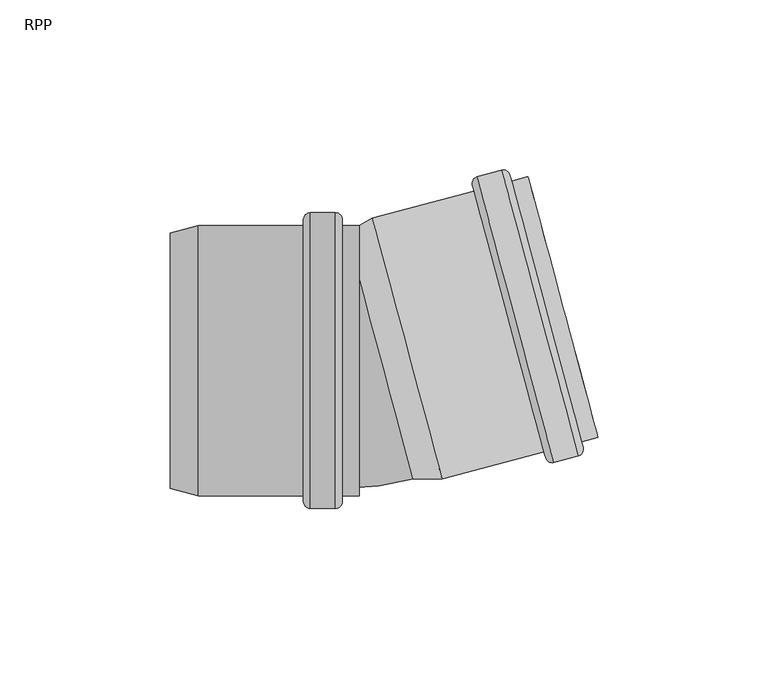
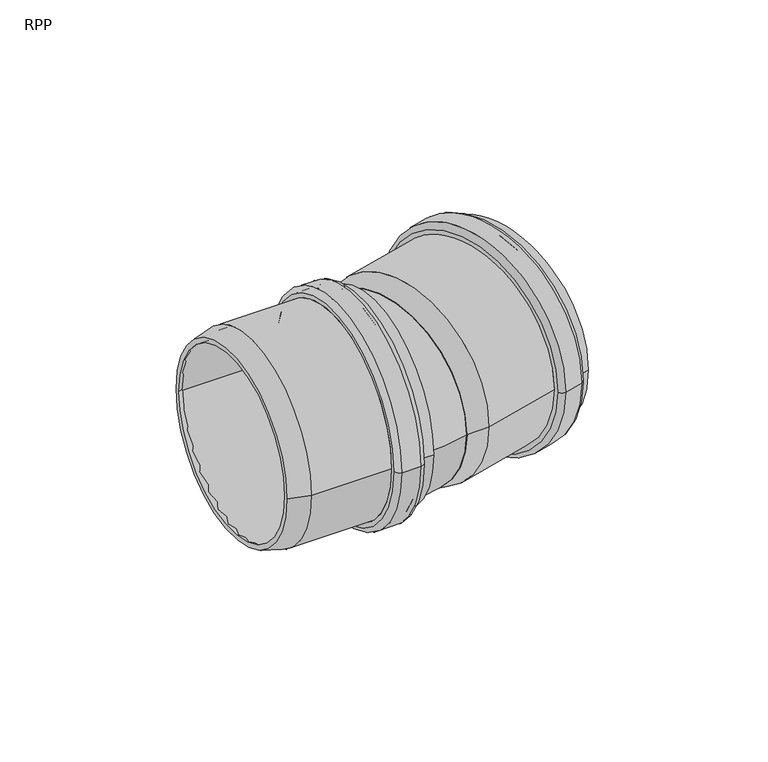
"""IFC4 building model written with IfcOpenShell, lengths in millimetres: pipe fitting geometry, RAUPIANO PLUS Bend : RPP."""

from ifc_helpers import new_model, si_unit, point, frame, origin, place, context, project, spatial, polyline, circle_curve, ellipse_curve, trimmed, source, transform, mapped, element, save
from ifc_brep_helpers import plane_surface, cylinder_surface, revolved_surface, advanced_brep


def rpp_9e0b4bd6(model_context):
    return source(origin(), model_context, "Body", "AdvancedBrep", [
        advanced_brep(
        [(-15.3635786, -37.8, 0.0), (-15.3635786, 37.8, 0.0), (-48.0029271, 37.8, 0.0), (-48.0029271, -37.8, 0.0), (-14.8635786, -41.6, 0.0), (-14.8635786, 41.6, 0.0), (-15.3635786, 41.1, 0.0), (-15.3635786, -41.1, 0.0), (-8.2635786, -41.6, 0.0), (-8.2635786, 41.6, 0.0), (-7.7635786, -41.1, 0.0), (-7.7635786, 41.1, 0.0), (-0.8635786, -37.8, 0.0), (-0.8635786, 37.8, 0.0), (-7.7635786, 37.8, 0.0), (-7.7635786, -37.8, 0.0), (-5.8635786, -39.7, 0.0), (-5.8635786, 39.7, 0.0), (-0.8635786, 39.7, 0.0), (-0.8635786, -39.7, 0.0), (-7.8635786, -43.5, 0.0), (-7.8635786, 43.5, 0.0), (-5.8635786, 41.5, 0.0), (-5.8635786, -41.5, 0.0), (-15.2635786, -43.5, 0.0), (-15.2635786, 43.5, 0.0), (-17.2635786, -41.5, 0.0), (-17.2635786, 41.5, 0.0), (-48.2530669, -39.7, 0.0), (-48.2530669, 39.7, 0.0), (-17.2635786, 39.7, 0.0), (-17.2635786, -39.7, 0.0), (-56.4635786, -37.5, 0.0), (-56.4635786, 37.5, 0.0), (-56.4635786, 35.5329753, 0.0), (-56.4635786, -35.5329753, 0.0)],
        [
            (0, 1, circle_curve(frame((-15.3635786, 0.0, 0.0), z_axis=(1.0, 0.0, 0.0), x_axis=(0.0, 1.0, 0.0)), 37.8)),
            (1, 2),
            (2, 3, circle_curve(frame((-48.0029271, 0.0, 0.0), z_axis=(-1.0, 0.0, 0.0), x_axis=(0.0, 1.0, 0.0)), 37.8)),
            (3, 0),
            (4, 5, circle_curve(frame((-14.8635786, 0.0, 0.0), z_axis=(1.0, 0.0, 0.0), x_axis=(0.0, 1.0, 0.0)), 41.6)),
            (5, 6, circle_curve(frame((-14.8635786, 41.1, 0.0), z_axis=(0.0, 0.0, 1.0), x_axis=(0.0, -1.0, 0.0)), 0.5)),
            (6, 7, circle_curve(frame((-15.3635786, 0.0, 0.0), z_axis=(-1.0, 0.0, 0.0), x_axis=(0.0, 1.0, 0.0)), 41.1)),
            (7, 4, circle_curve(frame((-14.8635786, -41.1, 0.0), z_axis=(0.0, 0.0, 1.0), x_axis=(0.0, 1.0, 0.0)), 0.5)),
            (8, 9, circle_curve(frame((-8.2635786, 0.0, 0.0), z_axis=(1.0, 0.0, 0.0), x_axis=(0.0, 1.0, 0.0)), 41.6)),
            (9, 5),
            (4, 8),
            (10, 11, circle_curve(frame((-7.7635786, 0.0, 0.0), z_axis=(1.0, 0.0, 0.0), x_axis=(0.0, 1.0, 0.0)), 41.1)),
            (11, 9, circle_curve(frame((-8.2635786, 41.1, 0.0), z_axis=(0.0, 0.0, 1.0), x_axis=(0.0, -1.0, 0.0)), 0.5)),
            (8, 10, circle_curve(frame((-8.2635786, -41.1, 0.0), z_axis=(0.0, 0.0, 1.0), x_axis=(0.0, 1.0, 0.0)), 0.5)),
            (12, 13, circle_curve(frame((-0.8635786, 0.0, 0.0), z_axis=(1.0, 0.0, 0.0), x_axis=(0.0, 1.0, 0.0)), 37.8)),
            (13, 14),
            (14, 15, circle_curve(frame((-7.7635786, 0.0, 0.0), z_axis=(-1.0, 0.0, 0.0), x_axis=(0.0, 1.0, 0.0)), 37.8)),
            (15, 12),
            (16, 17, circle_curve(frame((-5.8635786, 0.0, 0.0), z_axis=(1.0, 0.0, 0.0), x_axis=(0.0, 1.0, 0.0)), 39.7)),
            (17, 18),
            (18, 19, circle_curve(frame((-0.8635786, 0.0, 0.0), z_axis=(-1.0, 0.0, 0.0), x_axis=(0.0, 1.0, 0.0)), 39.7)),
            (19, 16),
            (20, 21, circle_curve(frame((-7.8635786, 0.0, 0.0), z_axis=(1.0, 0.0, 0.0), x_axis=(0.0, 1.0, 0.0)), 43.5)),
            (21, 22, circle_curve(frame((-7.8635786, 41.5, 0.0), z_axis=(0.0, 0.0, -1.0), x_axis=(0.0, -1.0, 0.0)), 2.0)),
            (22, 23, circle_curve(frame((-5.8635786, 0.0, 0.0), z_axis=(-1.0, 0.0, 0.0), x_axis=(0.0, 1.0, 0.0)), 41.5)),
            (23, 20, circle_curve(frame((-7.8635786, -41.5, 0.0), z_axis=(0.0, 0.0, -1.0), x_axis=(0.0, 1.0, 0.0)), 2.0)),
            (24, 25, circle_curve(frame((-15.2635786, 0.0, 0.0), z_axis=(1.0, 0.0, 0.0), x_axis=(0.0, 1.0, 0.0)), 43.5)),
            (25, 21),
            (20, 24),
            (26, 27, circle_curve(frame((-17.2635786, 0.0, 0.0), z_axis=(1.0, 0.0, 0.0), x_axis=(0.0, 1.0, 0.0)), 41.5)),
            (27, 25, circle_curve(frame((-15.2635786, 41.5, 0.0), z_axis=(0.0, 0.0, -1.0), x_axis=(0.0, -1.0, 0.0)), 2.0)),
            (24, 26, circle_curve(frame((-15.2635786, -41.5, 0.0), z_axis=(0.0, 0.0, -1.0), x_axis=(0.0, 1.0, 0.0)), 2.0)),
            (28, 29, circle_curve(frame((-48.2530669, 0.0, 0.0), z_axis=(1.0, 0.0, 0.0), x_axis=(0.0, 1.0, 0.0)), 39.7)),
            (29, 30),
            (30, 31, circle_curve(frame((-17.2635786, 0.0, 0.0), z_axis=(-1.0, 0.0, 0.0), x_axis=(0.0, 1.0, 0.0)), 39.7)),
            (31, 28),
            (32, 33, circle_curve(frame((-56.4635786, 0.0, 0.0), z_axis=(1.0, 0.0, 0.0), x_axis=(0.0, 1.0, 0.0)), 37.5)),
            (33, 29),
            (28, 32),
            (2, 34),
            (34, 35, circle_curve(frame((-56.4635786, 0.0, 0.0), z_axis=(-1.0, 0.0, 0.0), x_axis=(0.0, 1.0, 0.0)), 35.5329753)),
            (35, 3),
            (1, 0, circle_curve(frame((-15.3635786, 0.0, 0.0), z_axis=(1.0, 0.0, 0.0), x_axis=(0.0, -1.0, 0.0)), 37.8)),
            (3, 2, circle_curve(frame((-48.0029271, 0.0, 0.0), z_axis=(-1.0, 0.0, 0.0), x_axis=(0.0, -1.0, 0.0)), 37.8)),
            (6, 7, circle_curve(frame((-15.3635786, 0.0, 0.0), z_axis=(1.0, 0.0, 0.0), x_axis=(0.0, -1.0, 0.0)), 41.1)),
            (5, 4, circle_curve(frame((-14.8635786, 0.0, 0.0), z_axis=(1.0, 0.0, 0.0), x_axis=(0.0, -1.0, 0.0)), 41.6)),
            (9, 8, circle_curve(frame((-8.2635786, 0.0, 0.0), z_axis=(1.0, 0.0, 0.0), x_axis=(0.0, -1.0, 0.0)), 41.6)),
            (11, 10, circle_curve(frame((-7.7635786, 0.0, 0.0), z_axis=(1.0, 0.0, 0.0), x_axis=(0.0, -1.0, 0.0)), 41.1)),
            (14, 15, circle_curve(frame((-7.7635786, 0.0, 0.0), z_axis=(1.0, 0.0, 0.0), x_axis=(0.0, -1.0, 0.0)), 37.8)),
            (13, 12, circle_curve(frame((-0.8635786, 0.0, 0.0), z_axis=(1.0, 0.0, 0.0), x_axis=(0.0, -1.0, 0.0)), 37.8)),
            (18, 19, circle_curve(frame((-0.8635786, 0.0, 0.0), z_axis=(1.0, 0.0, 0.0), x_axis=(0.0, -1.0, 0.0)), 39.7)),
            (17, 16, circle_curve(frame((-5.8635786, 0.0, 0.0), z_axis=(1.0, 0.0, 0.0), x_axis=(0.0, -1.0, 0.0)), 39.7)),
            (22, 23, circle_curve(frame((-5.8635786, 0.0, 0.0), z_axis=(1.0, 0.0, 0.0), x_axis=(0.0, -1.0, 0.0)), 41.5)),
            (21, 20, circle_curve(frame((-7.8635786, 0.0, 0.0), z_axis=(1.0, 0.0, 0.0), x_axis=(0.0, -1.0, 0.0)), 43.5)),
            (25, 24, circle_curve(frame((-15.2635786, 0.0, 0.0), z_axis=(1.0, 0.0, 0.0), x_axis=(0.0, -1.0, 0.0)), 43.5)),
            (27, 26, circle_curve(frame((-17.2635786, 0.0, 0.0), z_axis=(1.0, 0.0, 0.0), x_axis=(0.0, -1.0, 0.0)), 41.5)),
            (30, 31, circle_curve(frame((-17.2635786, 0.0, 0.0), z_axis=(1.0, 0.0, 0.0), x_axis=(0.0, -1.0, 0.0)), 39.7)),
            (29, 28, circle_curve(frame((-48.2530669, 0.0, 0.0), z_axis=(1.0, 0.0, 0.0), x_axis=(0.0, -1.0, 0.0)), 39.7)),
            (33, 32, circle_curve(frame((-56.4635786, 0.0, 0.0), z_axis=(1.0, 0.0, 0.0), x_axis=(0.0, -1.0, 0.0)), 37.5)),
            (34, 35, circle_curve(frame((-56.4635786, 0.0, 0.0), z_axis=(1.0, 0.0, 0.0), x_axis=(0.0, -1.0, 0.0)), 35.5329753)),
        ],
        [
            revolved_surface(polyline([(-48.0029271, 37.8, 0.0), (-15.363578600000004, 37.8, 0.0)]), (-56.4635786, 0.0, 0.0), (-1.0, 0.0, 0.0)),
            revolved_surface(trimmed(ellipse_curve(frame((-14.8635786, 41.1, 0.0), z_axis=(0.0, 0.0, -1.0), x_axis=(0.0, -1.0, 0.0)), 0.5, 0.5), [point((-15.3635786, 41.1, 0.0))], [point((-14.8635786, 41.6, 0.0))], True, "CARTESIAN"), (-56.4635786, 0.0, 0.0), (-1.0, 0.0, 0.0)),
            revolved_surface(polyline([(-14.863578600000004, 41.6, 0.0), (-8.263578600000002, 41.6, 0.0)]), (-56.4635786, 0.0, 0.0), (-1.0, 0.0, 0.0)),
            revolved_surface(trimmed(ellipse_curve(frame((-8.2635786, 41.1, 0.0), z_axis=(0.0, 0.0, -1.0), x_axis=(0.0, -1.0, 0.0)), 0.5, 0.5), [point((-8.2635786, 41.6, 0.0))], [point((-7.7635786, 41.1, 0.0))], True, "CARTESIAN"), (-56.4635786, 0.0, 0.0), (-1.0, 0.0, 0.0)),
            revolved_surface(polyline([(-7.763578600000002, 37.8, 0.0), (-0.8635785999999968, 37.8, 0.0)]), (-56.4635786, 0.0, 0.0), (-1.0, 0.0, 0.0)),
            cylinder_surface(frame((-56.4635786, 0.0, 0.0), z_axis=(-1.0, 0.0, 0.0), x_axis=(0.0, 1.0, 0.0)), 39.7),
            revolved_surface(trimmed(ellipse_curve(frame((-7.8635786, 41.5, 0.0), z_axis=(0.0, 0.0, 1.0), x_axis=(0.0, -1.0, 0.0)), 2.0, 2.0), [point((-5.8635786, 41.5, 0.0))], [point((-7.8635786, 43.5, 0.0))], True, "CARTESIAN"), (-56.4635786, 0.0, 0.0), (-1.0, 0.0, 0.0)),
            cylinder_surface(frame((-56.4635786, 0.0, 0.0), z_axis=(-1.0, 0.0, 0.0), x_axis=(0.0, 1.0, 0.0)), 43.5),
            revolved_surface(trimmed(ellipse_curve(frame((-15.2635786, 41.5, 0.0), z_axis=(0.0, 0.0, 1.0), x_axis=(0.0, -1.0, 0.0)), 2.0, 2.0), [point((-15.2635786, 43.5, 0.0))], [point((-17.2635786, 41.5, 0.0))], True, "CARTESIAN"), (-56.4635786, 0.0, 0.0), (-1.0, 0.0, 0.0)),
            revolved_surface(polyline([(-48.2530669, 39.7, 0.0), (-56.4635786, 37.5, 0.0)]), (-56.4635786, 0.0, 0.0), (-1.0, 0.0, 0.0)),
            revolved_surface(polyline([(-56.4635786, 35.5329753, 0.0), (-48.0029271, 37.8, 0.0)]), (-56.4635786, 0.0, 0.0), (-1.0, 0.0, 0.0)),
            revolved_surface(polyline([(-48.0029271, -37.8, 0.0), (-15.363578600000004, -37.8, 0.0)]), (-56.4635786, 0.0, 0.0), (-1.0, 0.0, 0.0)),
            plane_surface(frame((-15.3635786, 0.0, 0.0), z_axis=(1.0, 0.0, 0.0), x_axis=(0.0, -1.0, 0.0))),
            revolved_surface(trimmed(ellipse_curve(frame((-14.8635786, -41.1, 0.0), z_axis=(0.0, 0.0, 1.0), x_axis=(0.0, 1.0, 0.0)), 0.5, 0.5), [point((-15.3635786, -41.1, 0.0))], [point((-14.8635786, -41.6, 0.0))], True, "CARTESIAN"), (-56.4635786, 0.0, 0.0), (-1.0, 0.0, 0.0)),
            revolved_surface(polyline([(-14.863578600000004, -41.6, 0.0), (-8.263578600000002, -41.6, 0.0)]), (-56.4635786, 0.0, 0.0), (-1.0, 0.0, 0.0)),
            revolved_surface(trimmed(ellipse_curve(frame((-8.2635786, -41.1, 0.0), z_axis=(0.0, 0.0, 1.0), x_axis=(0.0, 1.0, 0.0)), 0.5, 0.5), [point((-8.2635786, -41.6, 0.0))], [point((-7.7635786, -41.1, 0.0))], True, "CARTESIAN"), (-56.4635786, 0.0, 0.0), (-1.0, 0.0, 0.0)),
            plane_surface(frame((-7.7635786, 0.0, 0.0), z_axis=(-1.0, 0.0, 0.0), x_axis=(0.0, -1.0, 0.0))),
            revolved_surface(polyline([(-7.763578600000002, -37.8, 0.0), (-0.8635785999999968, -37.8, 0.0)]), (-56.4635786, 0.0, 0.0), (-1.0, 0.0, 0.0)),
            plane_surface(frame((-0.8635786, 0.0, 0.0), z_axis=(1.0, 0.0, 0.0), x_axis=(0.0, -1.0, 0.0))),
            cylinder_surface(frame((-56.4635786, 0.0, 0.0), z_axis=(-1.0, 0.0, 0.0), x_axis=(0.0, -1.0, 0.0)), 39.7),
            plane_surface(frame((-5.8635786, 0.0, 0.0), z_axis=(1.0, 0.0, 0.0), x_axis=(0.0, -1.0, 0.0))),
            revolved_surface(trimmed(ellipse_curve(frame((-7.8635786, -41.5, 0.0), z_axis=(0.0, 0.0, -1.0), x_axis=(0.0, 1.0, 0.0)), 2.0, 2.0), [point((-5.8635786, -41.5, 0.0))], [point((-7.8635786, -43.5, 0.0))], True, "CARTESIAN"), (-56.4635786, 0.0, 0.0), (-1.0, 0.0, 0.0)),
            cylinder_surface(frame((-56.4635786, 0.0, 0.0), z_axis=(-1.0, 0.0, 0.0), x_axis=(0.0, -1.0, 0.0)), 43.5),
            revolved_surface(trimmed(ellipse_curve(frame((-15.2635786, -41.5, 0.0), z_axis=(0.0, 0.0, -1.0), x_axis=(0.0, 1.0, 0.0)), 2.0, 2.0), [point((-15.2635786, -43.5, 0.0))], [point((-17.2635786, -41.5, 0.0))], True, "CARTESIAN"), (-56.4635786, 0.0, 0.0), (-1.0, 0.0, 0.0)),
            plane_surface(frame((-17.2635786, 0.0, 0.0), z_axis=(-1.0, 0.0, 0.0), x_axis=(0.0, -1.0, 0.0))),
            revolved_surface(polyline([(-48.2530669, -39.7, 0.0), (-56.4635786, -37.5, 0.0)]), (-56.4635786, 0.0, 0.0), (-1.0, 0.0, 0.0)),
            plane_surface(frame((-56.4635786, 0.0, 0.0), z_axis=(-1.0, 0.0, 0.0), x_axis=(0.0, -1.0, 0.0))),
            revolved_surface(polyline([(-56.4635786, -35.5329753, 0.0), (-48.0029271, -37.8, 0.0)]), (-56.4635786, 0.0, 0.0), (-1.0, 0.0, 0.0)),
        ],
        [
            (0, [[1, 2, 3, 4]]),
            (1, [[5, 6, 7, 8]]),
            (2, [[9, 10, -5, 11]]),
            (3, [[12, 13, -9, 14]]),
            (4, [[15, 16, 17, 18]]),
            (5, [[19, 20, 21, 22]]),
            (6, [[23, 24, 25, 26]]),
            (7, [[27, 28, -23, 29]]),
            (8, [[30, 31, -27, 32]]),
            (5, [[33, 34, 35, 36]]),
            (9, [[37, 38, -33, 39]]),
            (10, [[-3, 40, 41, 42]]),
            (11, [[43, -4, 44, -2]]),
            (12, [[45, -7], [-43, -1]]),
            (13, [[46, -8, -45, -6]]),
            (14, [[47, -11, -46, -10]]),
            (15, [[48, -14, -47, -13]]),
            (16, [[-48, -12], [49, -17]]),
            (17, [[50, -18, -49, -16]]),
            (18, [[51, -21], [-50, -15]]),
            (19, [[52, -22, -51, -20]]),
            (20, [[53, -25], [-52, -19]]),
            (21, [[54, -26, -53, -24]]),
            (22, [[55, -29, -54, -28]]),
            (23, [[56, -32, -55, -31]]),
            (24, [[-56, -30], [57, -35]]),
            (19, [[58, -36, -57, -34]]),
            (25, [[59, -39, -58, -38]]),
            (26, [[-59, -37], [60, -41]]),
            (27, [[-44, -42, -60, -40]]),
        ],
    ),
        advanced_brep(
        [(14.4740224, -32.9081403, 0.0), (-3.919199, 35.7362967, 0.0), (3.6664136, 40.1158522, 0.0), (23.2331334, -32.9081403, 0.0), (23.4832732, -34.8081403, 0.0), (2.933041, 41.8863703, 0.0), (-4.4283025, 37.6362967, 0.0), (14.9831259, -34.8081403, 0.0), (53.4168202, -26.7874705, 0.0), (32.866588, 49.9070401, 0.0), (63.4800353, -28.0250896, 0.0), (40.9627784, 56.0104572, 0.0), (33.8149273, 54.0951963, 0.0), (56.3321842, -29.9403506, 0.0), (69.2580038, -22.5428382, 0.0), (48.7077716, 54.1516724, 0.0), (43.8781424, 52.8575772, 0.0), (64.4283746, -23.8369334, 0.0), (62.1013594, -22.4934305, 0.0), (42.5346396, 50.5305619, 0.0), (49.1995278, 52.3164134, 0.0), (68.7662476, -20.7075791, 0.0), (56.2267984, -28.0015639, 0.0), (34.6930538, 52.3634649, 0.0), (41.0681643, 54.0716706, 0.0), (62.6019088, -26.2933582, 0.0), (35.1936033, 48.5635372, 0.0), (54.7603231, -24.4604553, 0.0), (32.4007137, 51.6457066, 0.0), (53.8826945, -28.526137, 0.0), (64.8942489, -25.5755999, 0.0), (43.4122682, 54.5962437, 0.0), (41.6805367, 53.7181172, 0.0), (62.9554622, -25.6809858, 0.0), (55.6144259, -27.6480105, 0.0), (34.3395004, 51.7510924, 0.0)],
        [
            (0, 1, circle_curve(frame((5.2774117, 1.4140782, 0.0), z_axis=(-0.965925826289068, -0.25881904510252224, 0.0), x_axis=(-0.25881904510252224, 0.965925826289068, 0.0)), 35.5329753)),
            (1, 2),
            (2, 3, circle_curve(frame((13.4497735, 3.603856, 0.0), z_axis=(0.965925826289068, 0.25881904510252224, 0.0), x_axis=(-0.25881904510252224, 0.965925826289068, 0.0)), 37.8)),
            (3, 0),
            (4, 5, circle_curve(frame((13.2081571, 3.539115, 0.0), z_axis=(-0.965925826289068, -0.25881904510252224, 0.0), x_axis=(-0.25881904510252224, 0.965925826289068, 0.0)), 39.7)),
            (5, 6),
            (6, 7, circle_curve(frame((5.2774117, 1.4140782, 0.0), z_axis=(0.965925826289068, 0.25881904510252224, 0.0), x_axis=(-0.25881904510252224, 0.965925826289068, 0.0)), 37.5)),
            (7, 4),
            (8, 9, circle_curve(frame((43.1417041, 11.5597848, 0.0), z_axis=(-0.965925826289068, -0.25881904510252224, 0.0), x_axis=(-0.25881904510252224, 0.965925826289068, 0.0)), 39.7)),
            (9, 5),
            (4, 8),
            (10, 11, circle_curve(frame((52.2214069, 13.9926838, 0.0), z_axis=(-0.965925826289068, -0.25881904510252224, 0.0), x_axis=(-0.25881904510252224, 0.965925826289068, 0.0)), 43.5)),
            (11, 12),
            (12, 13, circle_curve(frame((45.0735558, 12.0774229, 0.0), z_axis=(0.965925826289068, 0.25881904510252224, 0.0), x_axis=(-0.25881904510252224, 0.965925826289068, 0.0)), 43.5)),
            (13, 10),
            (14, 15, circle_curve(frame((58.9828877, 15.8044171, 0.0), z_axis=(-0.965925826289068, -0.25881904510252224, 0.0), x_axis=(-0.25881904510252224, 0.965925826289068, 0.0)), 39.7)),
            (15, 16),
            (16, 17, circle_curve(frame((54.1532585, 14.5103219, 0.0), z_axis=(0.965925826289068, 0.25881904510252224, 0.0), x_axis=(-0.25881904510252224, 0.965925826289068, 0.0)), 39.7)),
            (17, 14),
            (18, 19, circle_curve(frame((52.3179995, 14.0185657, 0.0), z_axis=(-0.965925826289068, -0.25881904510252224, 0.0), x_axis=(-0.25881904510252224, 0.965925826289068, 0.0)), 37.8)),
            (19, 20),
            (20, 21, circle_curve(frame((58.9828877, 15.8044171, 0.0), z_axis=(0.965925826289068, 0.25881904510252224, 0.0), x_axis=(-0.25881904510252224, 0.965925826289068, 0.0)), 37.8)),
            (21, 18),
            (22, 23, circle_curve(frame((45.4599261, 12.1809505, 0.0), z_axis=(-0.965925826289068, -0.25881904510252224, 0.0), x_axis=(-0.25881904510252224, 0.965925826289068, 0.0)), 41.6)),
            (23, 24),
            (24, 25, circle_curve(frame((51.8350365, 13.8891562, 0.0), z_axis=(0.965925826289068, 0.25881904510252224, 0.0), x_axis=(-0.25881904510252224, 0.965925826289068, 0.0)), 41.6)),
            (25, 22),
            (2, 26),
            (26, 27, circle_curve(frame((44.9769632, 12.051541, 0.0), z_axis=(0.965925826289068, 0.25881904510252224, 0.0), x_axis=(-0.25881904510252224, 0.965925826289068, 0.0)), 37.8)),
            (27, 3),
            (1, 0, circle_curve(frame((5.2774117, 1.4140782, 0.0), z_axis=(-0.965925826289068, -0.25881904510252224, 0.0), x_axis=(0.25881904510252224, -0.965925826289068, 0.0)), 35.5329753)),
            (3, 2, circle_curve(frame((13.4497735, 3.603856, 0.0), z_axis=(0.965925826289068, 0.25881904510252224, 0.0), x_axis=(0.25881904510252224, -0.965925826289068, 0.0)), 37.8)),
            (6, 7, circle_curve(frame((5.2774117, 1.4140782, 0.0), z_axis=(-0.965925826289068, -0.25881904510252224, 0.0), x_axis=(0.25881904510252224, -0.965925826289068, 0.0)), 37.5)),
            (5, 4, circle_curve(frame((13.2081571, 3.539115, 0.0), z_axis=(-0.965925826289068, -0.25881904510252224, 0.0), x_axis=(0.25881904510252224, -0.965925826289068, 0.0)), 39.7)),
            (9, 8, circle_curve(frame((43.1417041, 11.5597848, 0.0), z_axis=(-0.965925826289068, -0.25881904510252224, 0.0), x_axis=(0.25881904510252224, -0.965925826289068, 0.0)), 39.7)),
            (28, 29, circle_curve(frame((43.1417041, 11.5597848, 0.0), z_axis=(-0.965925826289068, -0.25881904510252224, 0.0), x_axis=(0.25881904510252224, -0.965925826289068, 0.0)), 41.5)),
            (29, 28, circle_curve(frame((43.1417041, 11.5597848, 0.0), z_axis=(-0.965925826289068, -0.25881904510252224, 0.0), x_axis=(-0.25881904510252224, 0.965925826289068, 0.0)), 41.5)),
            (11, 10, circle_curve(frame((52.2214069, 13.9926838, 0.0), z_axis=(-0.965925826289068, -0.25881904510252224, 0.0), x_axis=(0.25881904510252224, -0.965925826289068, 0.0)), 43.5)),
            (13, 12, circle_curve(frame((45.0735558, 12.0774229, 0.0), z_axis=(0.965925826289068, 0.25881904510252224, 0.0), x_axis=(0.25881904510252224, -0.965925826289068, 0.0)), 43.5)),
            (30, 31, circle_curve(frame((54.1532585, 14.5103219, 0.0), z_axis=(0.965925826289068, 0.25881904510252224, 0.0), x_axis=(0.25881904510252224, -0.965925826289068, 0.0)), 41.5)),
            (31, 30, circle_curve(frame((54.1532585, 14.5103219, 0.0), z_axis=(0.965925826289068, 0.25881904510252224, 0.0), x_axis=(-0.25881904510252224, 0.965925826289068, 0.0)), 41.5)),
            (16, 17, circle_curve(frame((54.1532585, 14.5103219, 0.0), z_axis=(-0.965925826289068, -0.25881904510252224, 0.0), x_axis=(0.25881904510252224, -0.965925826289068, 0.0)), 39.7)),
            (15, 14, circle_curve(frame((58.9828877, 15.8044171, 0.0), z_axis=(-0.965925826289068, -0.25881904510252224, 0.0), x_axis=(0.25881904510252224, -0.965925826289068, 0.0)), 39.7)),
            (20, 21, circle_curve(frame((58.9828877, 15.8044171, 0.0), z_axis=(-0.965925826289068, -0.25881904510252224, 0.0), x_axis=(0.25881904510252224, -0.965925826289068, 0.0)), 37.8)),
            (19, 18, circle_curve(frame((52.3179995, 14.0185657, 0.0), z_axis=(-0.965925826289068, -0.25881904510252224, 0.0), x_axis=(0.25881904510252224, -0.965925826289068, 0.0)), 37.8)),
            (32, 33, circle_curve(frame((52.3179995, 14.0185657, 0.0), z_axis=(-0.965925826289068, -0.25881904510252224, 0.0), x_axis=(0.25881904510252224, -0.965925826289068, 0.0)), 41.1)),
            (33, 32, circle_curve(frame((52.3179995, 14.0185657, 0.0), z_axis=(-0.965925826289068, -0.25881904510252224, 0.0), x_axis=(-0.25881904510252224, 0.965925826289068, 0.0)), 41.1)),
            (23, 22, circle_curve(frame((45.4599261, 12.1809505, 0.0), z_axis=(-0.965925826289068, -0.25881904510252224, 0.0), x_axis=(0.25881904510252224, -0.965925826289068, 0.0)), 41.6)),
            (25, 24, circle_curve(frame((51.8350365, 13.8891562, 0.0), z_axis=(0.965925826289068, 0.25881904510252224, 0.0), x_axis=(0.25881904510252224, -0.965925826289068, 0.0)), 41.6)),
            (34, 35, circle_curve(frame((44.9769632, 12.051541, 0.0), z_axis=(0.965925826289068, 0.25881904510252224, 0.0), x_axis=(0.25881904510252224, -0.965925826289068, 0.0)), 41.1)),
            (35, 34, circle_curve(frame((44.9769632, 12.051541, 0.0), z_axis=(0.965925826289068, 0.25881904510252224, 0.0), x_axis=(-0.25881904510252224, 0.965925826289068, 0.0)), 41.1)),
            (26, 27, circle_curve(frame((44.9769632, 12.051541, 0.0), z_axis=(-0.965925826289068, -0.25881904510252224, 0.0), x_axis=(0.25881904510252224, -0.965925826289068, 0.0)), 37.8)),
            (12, 28, circle_curve(frame((34.3325654, 52.1633447, 0.0), z_axis=(0.0, 0.0, 1.0000000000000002), x_axis=(0.25881904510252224, -0.965925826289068, 0.0)), 2.0)),
            (29, 13, circle_curve(frame((55.8145461, -28.0084989, 0.0), z_axis=(0.0, 0.0, 1.0000000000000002), x_axis=(-0.25881904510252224, 0.965925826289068, 0.0)), 2.0)),
            (31, 11, circle_curve(frame((41.4804165, 54.0786056, 0.0), z_axis=(0.0, 0.0, 1.0000000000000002), x_axis=(0.25881904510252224, -0.965925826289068, 0.0)), 2.0)),
            (10, 30, circle_curve(frame((62.9623973, -26.093238, 0.0), z_axis=(0.0, 0.0, 1.0000000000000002), x_axis=(-0.25881904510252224, 0.965925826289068, 0.0)), 2.0)),
            (24, 32, circle_curve(frame((41.1975738, 53.5887076, 0.0), z_axis=(0.0, 0.0, -1.0000000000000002), x_axis=(0.25881904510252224, -0.965925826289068, 0.0)), 0.5)),
            (33, 25, circle_curve(frame((62.4724993, -25.8103953, 0.0), z_axis=(0.0, 0.0, -1.0000000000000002), x_axis=(-0.25881904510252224, 0.965925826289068, 0.0)), 0.5)),
            (35, 23, circle_curve(frame((34.8224633, 51.8805019, 0.0), z_axis=(0.0, 0.0, -1.0000000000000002), x_axis=(0.25881904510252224, -0.965925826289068, 0.0)), 0.5)),
            (22, 34, circle_curve(frame((56.0973888, -27.518601, 0.0), z_axis=(0.0, 0.0, -1.0000000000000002), x_axis=(-0.25881904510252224, 0.965925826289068, 0.0)), 0.5)),
        ],
        [
            revolved_surface(polyline([(3.6664136, 40.1158522, 0.0), (-3.919199, 35.7362967, 0.0)]), (5.2774117, 1.4140782, 0.0), (0.965925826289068, 0.25881904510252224, 0.0)),
            revolved_surface(polyline([(-4.4283025, 37.6362967, 0.0), (2.933041, 41.8863703, 0.0)]), (5.2774117, 1.4140782, 0.0), (0.965925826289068, 0.25881904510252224, 0.0)),
            cylinder_surface(frame((5.2774117, 1.4140782, 0.0), z_axis=(0.965925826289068, 0.25881904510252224, 0.0), x_axis=(-0.25881904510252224, 0.965925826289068, 0.0)), 39.7),
            cylinder_surface(frame((5.2774117, 1.4140782, 0.0), z_axis=(0.965925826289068, 0.25881904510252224, 0.0), x_axis=(-0.25881904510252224, 0.965925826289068, 0.0)), 43.5),
            revolved_surface(polyline([(49.19952781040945, 52.31641336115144, 0.0), (42.534639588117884, 50.530561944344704, 0.0)]), (5.2774117, 1.4140782, 0.0), (0.965925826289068, 0.25881904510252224, 0.0)),
            revolved_surface(polyline([(41.0681643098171, 54.071670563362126, 0.0), (34.69305381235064, 52.363464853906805, 0.0)]), (5.2774117, 1.4140782, 0.0), (0.965925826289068, 0.25881904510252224, 0.0)),
            revolved_surface(polyline([(35.19360330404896, 48.56353720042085, 0.0), (3.666413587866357, 40.115852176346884, 0.0)]), (5.2774117, 1.4140782, 0.0), (0.965925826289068, 0.25881904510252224, 0.0)),
            revolved_surface(polyline([(23.2331334, -32.9081403, 0.0), (14.4740224, -32.9081403, 0.0)]), (5.2774117, 1.4140782, 0.0), (0.965925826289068, 0.25881904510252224, 0.0)),
            plane_surface(frame((5.2774117, 1.4140782, 0.0), z_axis=(-0.965925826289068, -0.25881904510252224, 0.0), x_axis=(0.25881904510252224, -0.965925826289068, 0.0))),
            revolved_surface(polyline([(14.9831259, -34.8081403, 0.0), (23.4832732, -34.8081403, 0.0)]), (5.2774117, 1.4140782, 0.0), (0.965925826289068, 0.25881904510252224, 0.0)),
            cylinder_surface(frame((5.2774117, 1.4140782, 0.0), z_axis=(0.965925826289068, 0.25881904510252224, 0.0), x_axis=(0.25881904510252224, -0.965925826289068, 0.0)), 39.7),
            plane_surface(frame((43.1417041, 11.5597848, 0.0), z_axis=(-0.965925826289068, -0.25881904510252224, 0.0), x_axis=(0.25881904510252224, -0.965925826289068, 0.0))),
            cylinder_surface(frame((5.2774117, 1.4140782, 0.0), z_axis=(0.965925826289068, 0.25881904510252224, 0.0), x_axis=(0.25881904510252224, -0.965925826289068, 0.0)), 43.5),
            plane_surface(frame((54.1532585, 14.5103219, 0.0), z_axis=(0.965925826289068, 0.25881904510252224, 0.0), x_axis=(0.25881904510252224, -0.965925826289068, 0.0))),
            plane_surface(frame((58.9828877, 15.8044171, 0.0), z_axis=(0.965925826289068, 0.25881904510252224, 0.0), x_axis=(0.25881904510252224, -0.965925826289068, 0.0))),
            revolved_surface(polyline([(68.76624762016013, -20.7075791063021, 0.0), (62.10135939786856, -22.493430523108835, 0.0)]), (5.2774117, 1.4140782, 0.0), (0.965925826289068, 0.25881904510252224, 0.0)),
            plane_surface(frame((52.3179995, 14.0185657, 0.0), z_axis=(-0.965925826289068, -0.25881904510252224, 0.0), x_axis=(0.25881904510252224, -0.965925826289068, 0.0))),
            revolved_surface(polyline([(62.601908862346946, -26.293358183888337, 0.0), (56.226798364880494, -28.001563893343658, 0.0)]), (5.2774117, 1.4140782, 0.0), (0.965925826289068, 0.25881904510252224, 0.0)),
            plane_surface(frame((44.9769632, 12.051541, 0.0), z_axis=(0.965925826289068, 0.25881904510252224, 0.0), x_axis=(0.25881904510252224, -0.965925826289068, 0.0))),
            revolved_surface(polyline([(54.76032311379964, -24.460455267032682, 0.0), (23.23313339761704, -32.908140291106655, 0.0)]), (5.2774117, 1.4140782, 0.0), (0.965925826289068, 0.25881904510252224, 0.0)),
            revolved_surface(trimmed(ellipse_curve(frame((34.3325654, 52.1633447, 0.0), z_axis=(0.0, 0.0, -1.0000000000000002), x_axis=(0.25881904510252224, -0.965925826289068, 0.0)), 2.0, 2.0), [point((32.4007137, 51.6457066, 0.0))], [point((33.8149273, 54.0951963, 0.0))], True, "CARTESIAN"), (5.2774117, 1.4140782, 0.0), (0.965925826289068, 0.25881904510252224, 0.0)),
            revolved_surface(trimmed(ellipse_curve(frame((41.4804165, 54.0786056, 0.0), z_axis=(0.0, 0.0, -1.0000000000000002), x_axis=(0.25881904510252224, -0.965925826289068, 0.0)), 2.0, 2.0), [point((40.9627784, 56.0104572, 0.0))], [point((43.4122682, 54.5962437, 0.0))], True, "CARTESIAN"), (5.2774117, 1.4140782, 0.0), (0.965925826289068, 0.25881904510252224, 0.0)),
            revolved_surface(trimmed(ellipse_curve(frame((41.1975738, 53.5887076, 0.0), z_axis=(0.0, 0.0, 1.0000000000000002), x_axis=(0.25881904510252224, -0.965925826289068, 0.0)), 0.5, 0.5), [point((41.6805367, 53.7181172, 0.0))], [point((41.0681643, 54.0716706, 0.0))], True, "CARTESIAN"), (5.2774117, 1.4140782, 0.0), (0.965925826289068, 0.25881904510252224, 0.0)),
            revolved_surface(trimmed(ellipse_curve(frame((34.8224633, 51.8805019, 0.0), z_axis=(0.0, 0.0, 1.0000000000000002), x_axis=(0.25881904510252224, -0.965925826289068, 0.0)), 0.5, 0.5), [point((34.6930538, 52.3634649, 0.0))], [point((34.3395004, 51.7510924, 0.0))], True, "CARTESIAN"), (5.2774117, 1.4140782, 0.0), (0.965925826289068, 0.25881904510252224, 0.0)),
            revolved_surface(trimmed(ellipse_curve(frame((55.8145461, -28.0084989, 0.0), z_axis=(0.0, 0.0, 1.0000000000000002), x_axis=(-0.2588190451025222, 0.965925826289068, 0.0)), 2.0, 2.0), [point((53.8826945, -28.526137, 0.0))], [point((56.3321842, -29.9403506, 0.0))], True, "CARTESIAN"), (5.2774117, 1.4140782, 0.0), (0.965925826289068, 0.25881904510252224, 0.0)),
            revolved_surface(trimmed(ellipse_curve(frame((62.9623973, -26.093238, 0.0), z_axis=(0.0, 0.0, 1.0000000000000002), x_axis=(-0.2588190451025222, 0.965925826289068, 0.0)), 2.0, 2.0), [point((63.4800353, -28.0250896, 0.0))], [point((64.8942489, -25.5755999, 0.0))], True, "CARTESIAN"), (5.2774117, 1.4140782, 0.0), (0.965925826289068, 0.25881904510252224, 0.0)),
            revolved_surface(trimmed(ellipse_curve(frame((62.4724993, -25.8103953, 0.0), z_axis=(0.0, 0.0, -1.0000000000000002), x_axis=(-0.2588190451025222, 0.965925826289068, 0.0)), 0.5, 0.5), [point((62.9554622, -25.6809858, 0.0))], [point((62.6019088, -26.2933582, 0.0))], True, "CARTESIAN"), (5.2774117, 1.4140782, 0.0), (0.965925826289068, 0.25881904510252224, 0.0)),
            revolved_surface(trimmed(ellipse_curve(frame((56.0973888, -27.518601, 0.0), z_axis=(0.0, 0.0, -1.0000000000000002), x_axis=(-0.2588190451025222, 0.965925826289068, 0.0)), 0.5, 0.5), [point((56.2267984, -28.0015639, 0.0))], [point((55.6144259, -27.6480105, 0.0))], True, "CARTESIAN"), (5.2774117, 1.4140782, 0.0), (0.965925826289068, 0.25881904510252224, 0.0)),
        ],
        [
            (0, [[1, 2, 3, 4]]),
            (1, [[5, 6, 7, 8]]),
            (2, [[9, 10, -5, 11]]),
            (3, [[12, 13, 14, 15]]),
            (2, [[16, 17, 18, 19]]),
            (4, [[20, 21, 22, 23]]),
            (5, [[24, 25, 26, 27]]),
            (6, [[-3, 28, 29, 30]]),
            (7, [[31, -4, 32, -2]]),
            (8, [[33, -7], [-31, -1]]),
            (9, [[34, -8, -33, -6]]),
            (10, [[35, -11, -34, -10]]),
            (11, [[36, 37], [-35, -9]]),
            (12, [[38, -15, 39, -13]]),
            (13, [[40, 41], [42, -18]]),
            (10, [[43, -19, -42, -17]]),
            (14, [[-43, -16], [44, -22]]),
            (15, [[45, -23, -44, -21]]),
            (16, [[46, 47], [-45, -20]]),
            (17, [[48, -27, 49, -25]]),
            (18, [[50, 51], [52, -29]]),
            (19, [[-32, -30, -52, -28]]),
            (20, [[-14, 53, -37, 54]]),
            (21, [[-41, 55, -12, 56]]),
            (22, [[-26, 57, -47, 58]]),
            (23, [[-51, 59, -24, 60]]),
            (24, [[-39, -54, -36, -53]]),
            (25, [[-40, -56, -38, -55]]),
            (26, [[-49, -58, -46, -57]]),
            (27, [[-50, -60, -48, -59]]),
        ],
    ),
        advanced_brep(
        [(-5.4635786, 35.6, 0.0), (-5.4635786, -35.6, 0.0), (-56.4635786, -35.6, 0.0), (-56.4635786, 35.6, 0.0), (-52.3583228, 37.5, 0.0), (-52.3583228, -37.5, 0.0), (-5.4635786, -37.5, 0.0), (-5.4635786, 37.5, 0.0), (-56.4635786, 36.4, 0.0), (-56.4635786, -36.4, 0.0)],
        [
            (0, 1, circle_curve(frame((-5.4635786, 0.0, 0.0), z_axis=(1.0, 0.0, 0.0), x_axis=(0.0, -1.0, 0.0)), 35.6)),
            (1, 2),
            (2, 3, circle_curve(frame((-56.4635786, 0.0, 0.0), z_axis=(-1.0, 0.0, 0.0), x_axis=(0.0, -1.0, 0.0)), 35.6)),
            (3, 0),
            (4, 5, circle_curve(frame((-52.3583228, 0.0, 0.0), z_axis=(1.0, 0.0, 0.0), x_axis=(0.0, -1.0, 0.0)), 37.5)),
            (5, 6),
            (6, 7, circle_curve(frame((-5.4635786, 0.0, 0.0), z_axis=(-1.0, 0.0, 0.0), x_axis=(0.0, -1.0, 0.0)), 37.5)),
            (7, 4),
            (8, 9, circle_curve(frame((-56.4635786, 0.0, 0.0), z_axis=(1.0, 0.0, 0.0), x_axis=(0.0, -1.0, 0.0)), 36.4)),
            (9, 5),
            (4, 8),
            (1, 0, circle_curve(frame((-5.4635786, 0.0, 0.0), z_axis=(1.0, 0.0, 0.0), x_axis=(0.0, 1.0, 0.0)), 35.6)),
            (3, 2, circle_curve(frame((-56.4635786, 0.0, 0.0), z_axis=(-1.0, 0.0, 0.0), x_axis=(0.0, 1.0, 0.0)), 35.6)),
            (6, 7, circle_curve(frame((-5.4635786, 0.0, 0.0), z_axis=(1.0, 0.0, 0.0), x_axis=(0.0, 1.0, 0.0)), 37.5)),
            (5, 4, circle_curve(frame((-52.3583228, 0.0, 0.0), z_axis=(1.0, 0.0, 0.0), x_axis=(0.0, 1.0, 0.0)), 37.5)),
            (9, 8, circle_curve(frame((-56.4635786, 0.0, 0.0), z_axis=(1.0, 0.0, 0.0), x_axis=(0.0, 1.0, 0.0)), 36.4)),
        ],
        [
            revolved_surface(polyline([(-56.4635786, -35.6, 0.0), (-5.4635786, -35.6, 0.0)]), (-5.4635786, 0.0, 0.0), (-1.0, 0.0, 0.0)),
            cylinder_surface(frame((-5.4635786, 0.0, 0.0), z_axis=(-1.0, 0.0, 0.0), x_axis=(0.0, -1.0, 0.0)), 37.5),
            revolved_surface(polyline([(-52.3583228, -37.5, 0.0), (-56.4635786, -36.4, 0.0)]), (-5.4635786, 0.0, 0.0), (-1.0, 0.0, 0.0)),
            revolved_surface(polyline([(-56.4635786, 35.6, 0.0), (-5.4635786, 35.6, 0.0)]), (-5.4635786, 0.0, 0.0), (-1.0, 0.0, 0.0)),
            plane_surface(frame((-5.4635786, 0.0, 0.0), z_axis=(1.0, 0.0, 0.0), x_axis=(0.0, 1.0, 0.0))),
            cylinder_surface(frame((-5.4635786, 0.0, 0.0), z_axis=(-1.0, 0.0, 0.0), x_axis=(0.0, 1.0, 0.0)), 37.5),
            revolved_surface(polyline([(-52.3583228, 37.5, 0.0), (-56.4635786, 36.4, 0.0)]), (-5.4635786, 0.0, 0.0), (-1.0, 0.0, 0.0)),
            plane_surface(frame((-56.4635786, 0.0, 0.0), z_axis=(-1.0, 0.0, 0.0), x_axis=(0.0, 1.0, 0.0))),
        ],
        [
            (0, [[1, 2, 3, 4]]),
            (1, [[5, 6, 7, 8]]),
            (2, [[9, 10, -5, 11]]),
            (3, [[12, -4, 13, -2]]),
            (4, [[14, -7], [-12, -1]]),
            (5, [[15, -8, -14, -6]]),
            (6, [[16, -11, -15, -10]]),
            (7, [[-16, -9], [-13, -3]]),
        ],
    ),
        advanced_brep(
        [(-5.4635786, -37.5, 0.0), (-5.4635786, 37.5, 0.0), (-5.4635786, -35.6, 0.0), (-5.4635786, 35.6, 0.0), (14.9831259, -34.8081403, 0.0), (-4.4283025, 37.6362967, 0.0), (14.4913697, -32.9728812, 0.0), (-3.9365463, 35.8010376, 0.0)],
        [
            (0, 1, circle_curve(frame((-5.4635786, 0.0, 0.0), z_axis=(-1.0, 0.0, 0.0), x_axis=(0.0, 1.0, 0.0)), 37.5)),
            (1, 0, circle_curve(frame((-5.4635786, 0.0, 0.0), z_axis=(-1.0, 0.0, 0.0), x_axis=(0.0, 1.0, 0.0)), 37.5)),
            (2, 3, circle_curve(frame((-5.4635786, 0.0, 0.0), z_axis=(1.0, 0.0, 0.0), x_axis=(0.0, 1.0, 0.0)), 35.6)),
            (3, 2, circle_curve(frame((-5.4635786, 0.0, 0.0), z_axis=(1.0, 0.0, 0.0), x_axis=(0.0, 1.0, 0.0)), 35.6)),
            (4, 5, circle_curve(frame((5.2774117, 1.4140782, 0.0), z_axis=(0.9659258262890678, 0.25881904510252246, 0.0), x_axis=(-0.25881904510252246, 0.9659258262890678, 0.0)), 37.5)),
            (5, 4, circle_curve(frame((5.2774117, 1.4140782, 0.0), z_axis=(0.9659258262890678, 0.25881904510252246, 0.0), x_axis=(-0.25881904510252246, 0.9659258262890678, 0.0)), 37.5)),
            (6, 7, circle_curve(frame((5.2774117, 1.4140782, 0.0), z_axis=(-0.9659258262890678, -0.25881904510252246, 0.0), x_axis=(-0.25881904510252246, 0.9659258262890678, 0.0)), 35.6)),
            (7, 6, circle_curve(frame((5.2774117, 1.4140782, 0.0), z_axis=(-0.9659258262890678, -0.25881904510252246, 0.0), x_axis=(-0.25881904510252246, 0.9659258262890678, 0.0)), 35.6)),
            (7, 3, circle_curve(frame((-5.4635786, 41.5, 0.0), z_axis=(0.0, 0.0, -1.0), x_axis=(0.0, -1.0, 0.0)), 5.9)),
            (2, 6, circle_curve(frame((-5.4635786, 41.5, 0.0), z_axis=(0.0, 0.0, 1.0), x_axis=(0.0, -1.0, 0.0)), 77.1)),
            (5, 1, circle_curve(frame((-5.4635786, 41.5, 0.0), z_axis=(0.0, 0.0, -1.0), x_axis=(0.0, -1.0, 0.0)), 4.0)),
            (0, 4, circle_curve(frame((-5.4635786, 41.5, 0.0), z_axis=(0.0, 0.0, 1.0), x_axis=(0.0, -1.0, 0.0)), 79.0)),
        ],
        [
            plane_surface(frame((-5.4635786, 0.0, 0.0), z_axis=(-1.0, 0.0, 0.0), x_axis=(0.0, 0.0, 1.0))),
            plane_surface(frame((5.2774117, 1.4140782, 0.0), z_axis=(0.9659258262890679, 0.2588190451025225, 0.0), x_axis=(0.0, 0.0, 1.0))),
            revolved_surface(trimmed(ellipse_curve(frame((-5.4635786, 0.0, 0.0), z_axis=(1.0, 0.0, 0.0), x_axis=(0.0, 1.0, 0.0)), 35.6, 35.6), [point((-5.4635786, -35.6, 0.0))], [point((-5.4635786, 35.6, 0.0))], True, "CARTESIAN"), (-5.4635786, 41.5, 0.0), (0.0, 0.0, 1.0)),
            revolved_surface(trimmed(ellipse_curve(frame((-5.4635786, 0.0, 0.0), z_axis=(1.0, 0.0, 0.0), x_axis=(0.0, 1.0, 0.0)), 35.6, 35.6), [point((-5.4635786, 35.6, 0.0))], [point((-5.4635786, -35.6, 0.0))], True, "CARTESIAN"), (-5.4635786, 41.5, 0.0), (0.0, 0.0, 1.0)),
            revolved_surface(trimmed(ellipse_curve(frame((-5.4635786, 0.0, 0.0), z_axis=(-1.0, 0.0, 0.0), x_axis=(0.0, 1.0, 0.0)), 37.5, 37.5), [point((-5.4635786, -37.5, 0.0))], [point((-5.4635786, 37.5, 0.0))], True, "CARTESIAN"), (-5.4635786, 41.5, 0.0), (0.0, 0.0, 1.0)),
            revolved_surface(trimmed(ellipse_curve(frame((-5.4635786, 0.0, 0.0), z_axis=(-1.0, 0.0, 0.0), x_axis=(0.0, 1.0, 0.0)), 37.5, 37.5), [point((-5.4635786, 37.5, 0.0))], [point((-5.4635786, -37.5, 0.0))], True, "CARTESIAN"), (-5.4635786, 41.5, 0.0), (0.0, 0.0, 1.0)),
        ],
        [
            (0, [[1, 2], [3, 4]]),
            (1, [[5, 6], [7, 8]]),
            (2, [[9, -3, 10, -8]]),
            (3, [[-10, -4, -9, -7]]),
            (4, [[11, -1, 12, -6]]),
            (5, [[-12, -2, -11, -5]]),
        ],
    ),
    ])


if __name__ == "__main__":
    model = new_model("IFC4")
    model_context = context("Model", 3, world=origin())
    ifc_project = project(units=[si_unit("LENGTHUNIT", "METRE", prefix="MILLI")], contexts=[model_context])
    site = spatial("IfcSite", under=ifc_project)
    building = spatial("IfcBuilding", under=site)
    placement = place(None, origin())
    rpp_shape = rpp_9e0b4bd6(model_context)
    element("IfcPipeFitting", 1, ObjectType="RAUPIANO PLUS Bend : RPP", at=placement, inside=building, context=model_context, shape_type="MappedRepresentation", body=[
        mapped(rpp_shape, transform((0.0, 0.0, 0.0), x_axis=(1.0, 0.0, 0.0), y_axis=(0.0, 1.0, 0.0), z_axis=(0.0, 0.0, 1.0))),
    ])
    save(model, "model.ifc")
